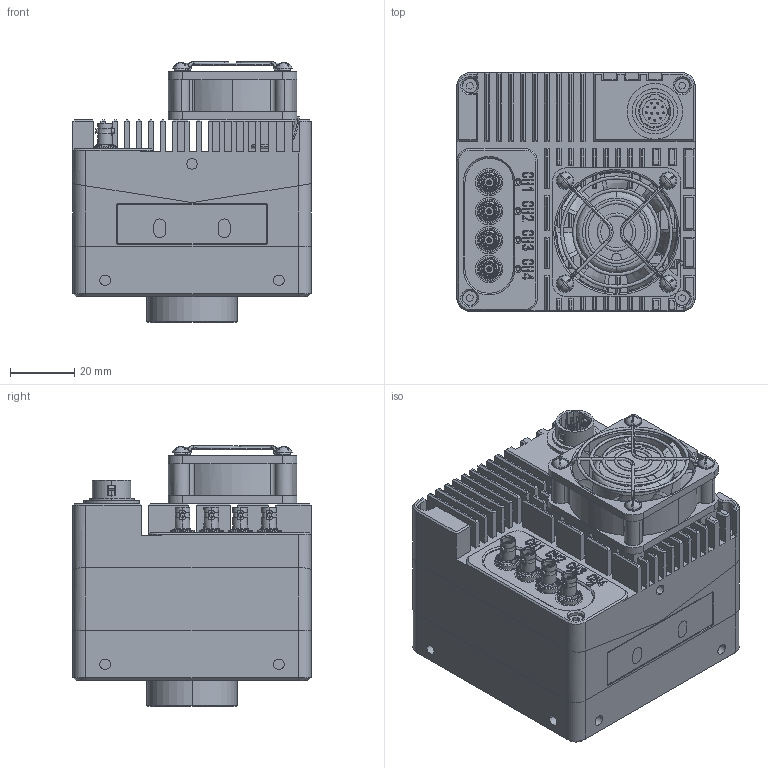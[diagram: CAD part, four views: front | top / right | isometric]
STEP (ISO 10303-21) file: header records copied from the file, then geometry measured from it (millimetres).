
FILE_DESCRIPTION (( 'STEP AP203' ), '1' );
FILE_NAME ('mars_hs_cxp_fan_74_74_(c-mount)_user_s1.0.1.STEP', '2023-09-14T05:15:59', ( '' ), ( '' ), 'SwSTEP 2.0', 'SolidWorks 2016', '' );
FILE_SCHEMA (( 'CONFIG_CONTROL_DESIGN' ));
Products named in the file (1): mars_hs_cxp_fan_74_74_(c-mount)_user_s1.0.1
Bounding box: 74 x 74 x 80.97 mm (x, y, z)
Volume: 210284.2 mm3; surface area: 101224.8 mm2
Topology: 63 solids, 71 shells, 3313 faces, 8366 edges, 5407 vertices
Faces by surface type: plane 1909, cylinder 845, bspline 397, cone 148, sphere 8, torus 6
Entity records: 162430 total; most frequent: CARTESIAN_POINT 85401, ORIENTED_EDGE 16724, DIRECTION 14542, EDGE_CURVE 8362, VERTEX_POINT 5403, LINE 5248, VECTOR 5248, AXIS2_PLACEMENT_3D 4647
